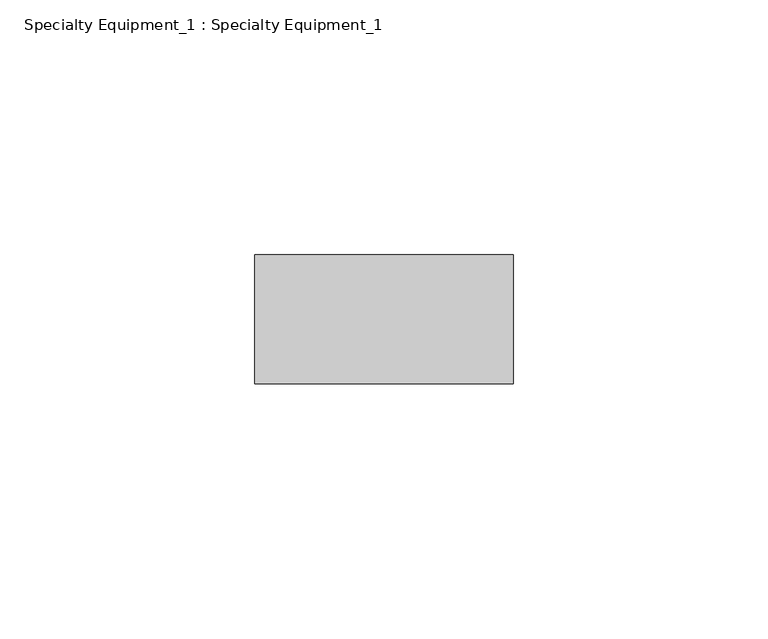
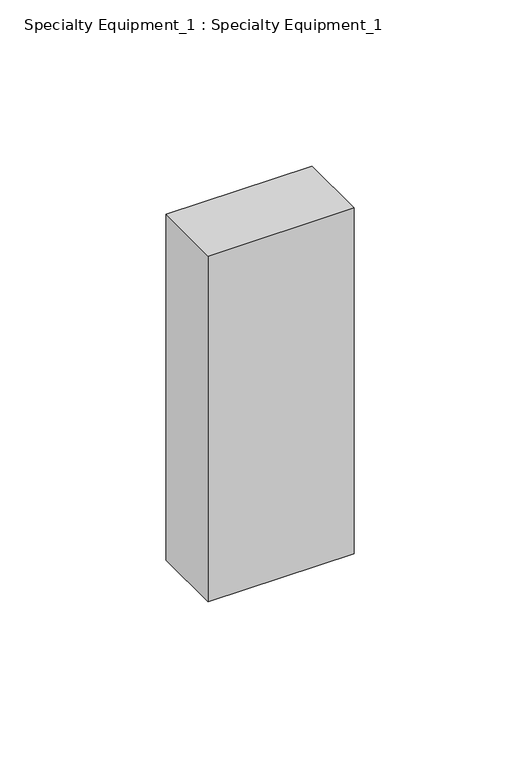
"""IFC4 building model written with IfcOpenShell, lengths in millimetres: proxy geometry, Specialty Equipment_1 : Specialty Equipment_1."""

from ifc_helpers import new_model, si_unit, origin, origin_with_axes, place, context, project, spatial, polyline, outline, extrude, source, transform, mapped, element, save


def specialty_equipment_1_specialty_equipment_1_de8e0843(model_context):
    return source(origin(), model_context, "Body", "SweptSolid", [
        extrude(outline(polyline([(25.4, 0.0), (25.4, -25.4), (-25.4, -25.4), (-25.4, 0.0), (25.4, 0.0)])), origin_with_axes(), (0.0, 0.0, 1.0), 127.0),
    ])


if __name__ == "__main__":
    model = new_model("IFC4")
    model_context = context("Model", 3, world=origin())
    ifc_project = project(units=[si_unit("LENGTHUNIT", "METRE", prefix="MILLI")], contexts=[model_context])
    site = spatial("IfcSite", under=ifc_project)
    building = spatial("IfcBuilding", under=site)
    placement = place(None, origin())
    specialty_equipment_1_specialty_equipment_1_shape = specialty_equipment_1_specialty_equipment_1_de8e0843(model_context)
    element("IfcBuildingElementProxy", 1, Name="Specialty Equipment_1 : Specialty Equipment_1", ObjectType="Specialty Equipment_1 : Specialty Equipment_1", at=placement, inside=building, context=model_context, shape_type="MappedRepresentation", body=[
        mapped(specialty_equipment_1_specialty_equipment_1_shape, transform((0.0, 0.0, 0.0), x_axis=(1.0, 0.0, 0.0), y_axis=(0.0, 1.0, 0.0), z_axis=(0.0, 0.0, 1.0))),
    ])
    save(model, "model.ifc")
